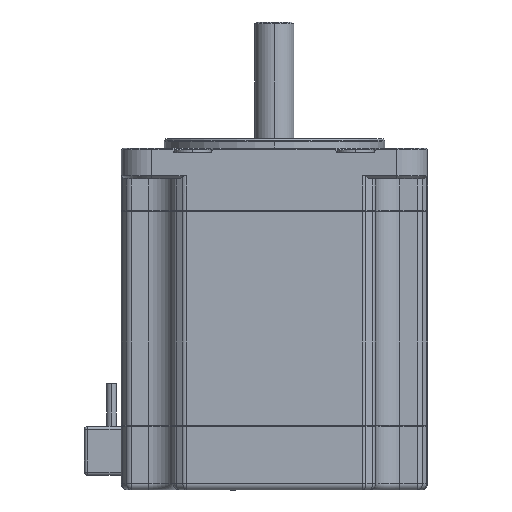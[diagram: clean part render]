
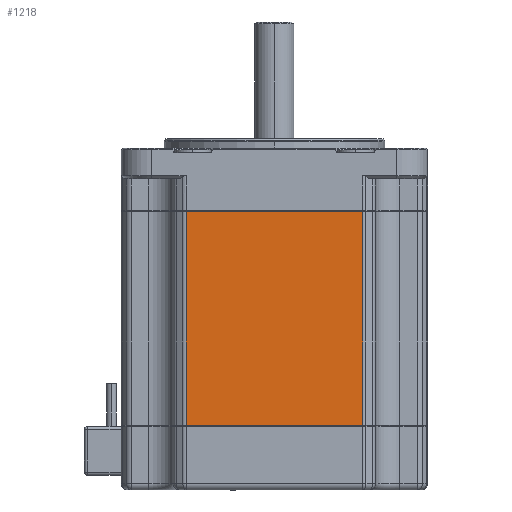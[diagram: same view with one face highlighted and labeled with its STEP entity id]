
A CAD part, left-side view. The second image highlights one B-rep face of the part: STEP entity #1218.
In plain terms, the highlighted planar face has unit normal (-1, 0, 0).
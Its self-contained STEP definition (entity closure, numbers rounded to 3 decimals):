
#1218 = ADVANCED_FACE ( 'NONE', ( #13679 ), #11425, .F. ) ;
#2188 = LINE ( 'NONE', #2189, #6698 ) ;
#2189 = CARTESIAN_POINT ( 'NONE',  ( -25., 14.422, -45.4 ) ) ;
#2190 = DIRECTION ( 'NONE',  ( 0., 0., 1. ) ) ;
#2209 = LINE ( 'NONE', #2210, #6704 ) ;
#2210 = CARTESIAN_POINT ( 'NONE',  ( -25., 14.422, -10.4 ) ) ;
#2211 = DIRECTION ( 'NONE',  ( 0., 1., 0. ) ) ;
#2221 = LINE ( 'NONE', #2222, #6709 ) ;
#2222 = CARTESIAN_POINT ( 'NONE',  ( -25., -14.422, -45.4 ) ) ;
#2223 = DIRECTION ( 'NONE',  ( 0., 0., 1. ) ) ;
#2335 = LINE ( 'NONE', #2336, #6747 ) ;
#2336 = CARTESIAN_POINT ( 'NONE',  ( -25., -14.422, -45.2 ) ) ;
#2337 = DIRECTION ( 'NONE',  ( 0., -1., 0. ) ) ;
#2732 = CARTESIAN_POINT ( 'NONE',  ( -25., 14.422, -10.4 ) ) ;
#2733 = CARTESIAN_POINT ( 'NONE',  ( -25., 14.422, -45.2 ) ) ;
#2734 = CARTESIAN_POINT ( 'NONE',  ( -25., -14.422, -10.4 ) ) ;
#2735 = CARTESIAN_POINT ( 'NONE',  ( -25., -14.422, -45.2 ) ) ;
#6698 = VECTOR ( 'NONE', #2190, 1000. ) ;
#6704 = VECTOR ( 'NONE', #2211, 1000. ) ;
#6709 = VECTOR ( 'NONE', #2223, 1000. ) ;
#6747 = VECTOR ( 'NONE', #2337, 1000. ) ;
#8286 = EDGE_LOOP ( 'NONE', ( #16095, #16093, #16094, #16092 ) ) ;
#11425 = PLANE ( 'NONE',  #13715 ) ;
#11426 = CARTESIAN_POINT ( 'NONE',  ( -25., 14.422, -45.4 ) ) ;
#11427 = DIRECTION ( 'NONE',  ( 1., 0., 0. ) ) ;
#11428 = DIRECTION ( 'NONE',  ( 0., 1., 0. ) ) ;
#13259 = EDGE_CURVE ( 'NONE', #13953, #13952, #2188, .T. ) ;
#13266 = EDGE_CURVE ( 'NONE', #13954, #13952, #2209, .T. ) ;
#13270 = EDGE_CURVE ( 'NONE', #13955, #13954, #2221, .T. ) ;
#13308 = EDGE_CURVE ( 'NONE', #13953, #13955, #2335, .T. ) ;
#13679 = FACE_OUTER_BOUND ( 'NONE', #8286, .T. ) ;
#13715 = AXIS2_PLACEMENT_3D ( 'NONE', #11426, #11427, #11428 ) ;
#13952 = VERTEX_POINT ( 'NONE', #2732 ) ;
#13953 = VERTEX_POINT ( 'NONE', #2733 ) ;
#13954 = VERTEX_POINT ( 'NONE', #2734 ) ;
#13955 = VERTEX_POINT ( 'NONE', #2735 ) ;
#16092 = ORIENTED_EDGE ( 'NONE', *, *, #13266, .T. ) ;
#16093 = ORIENTED_EDGE ( 'NONE', *, *, #13308, .T. ) ;
#16094 = ORIENTED_EDGE ( 'NONE', *, *, #13270, .T. ) ;
#16095 = ORIENTED_EDGE ( 'NONE', *, *, #13259, .F. ) ;
